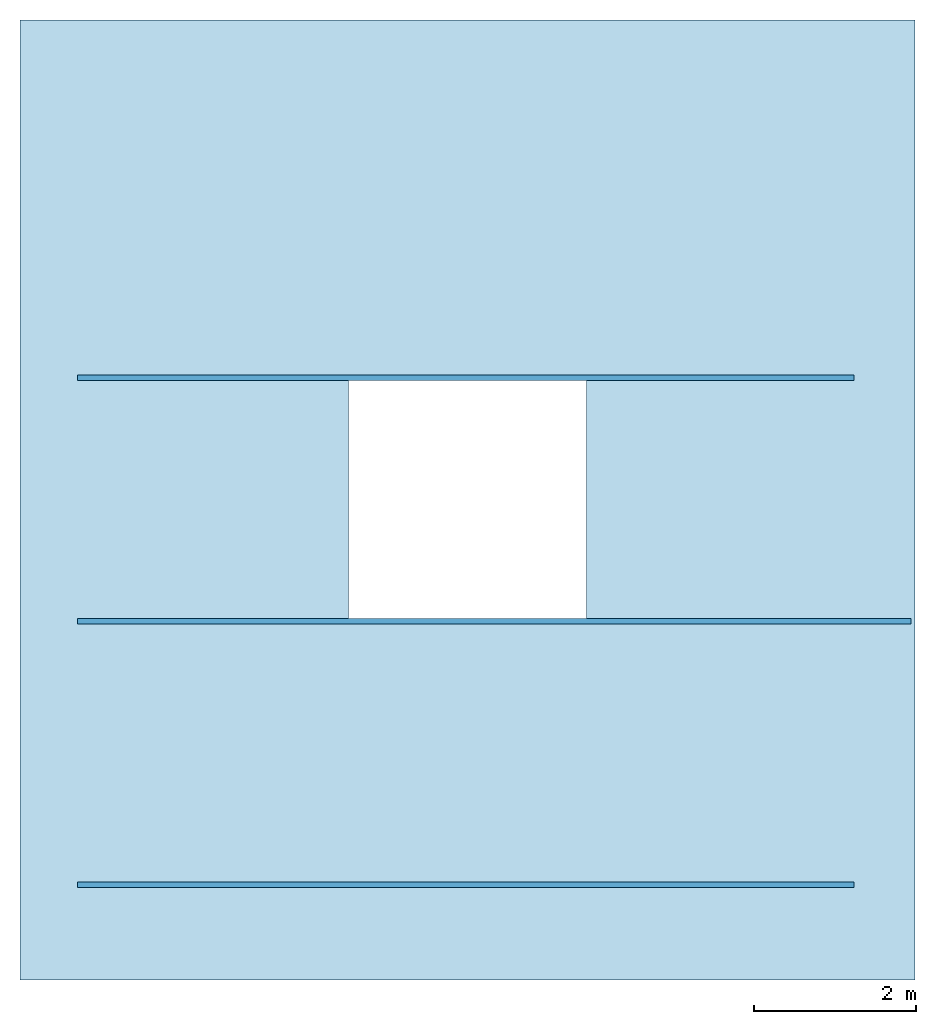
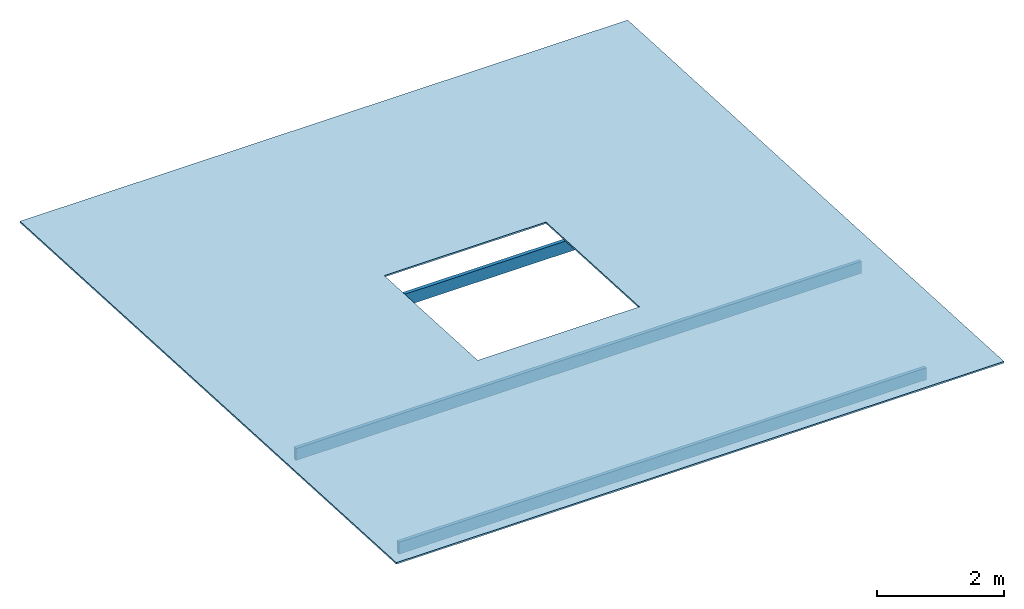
# One storey: 3 beams, 1 roof.
"""IFC2X3 building model written with IfcOpenShell, lengths in centimetres."""

import ifcopenshell
import ifcopenshell.guid

model = None  # the IFC model being written
_history = None  # IfcOwnerHistory: only IFC2X3 demands one
_inside = {}  # id of a spatial element -> (the spatial element, [elements in it])
_under = {}  # id of a project, library or spatial element -> (it, [spatial elements below it])
_declared = {}  # id of a project -> (the project, [libraries it declares])
_typed = {}  # id of a type object -> (the type object, [elements of that type])
_made_of = {}  # id of a material, layer set ... -> (it, [elements and type objects made of it])


def new_model(schema):
    """Start an empty IFC model of exactly this schema.

    Asked for "IFC4X3", IfcOpenShell would pick the latest addendum, in which some entities
    have other attributes; the version numbers below select the first issue.
    IFC2X3 requires an IfcOwnerHistory on every rooted entity: one is made here for all.
    """
    global model, _history
    if schema == "IFC4X3":
        model = ifcopenshell.file(schema_version=(4, 3, 0, 0))
    else:
        model = ifcopenshell.file(schema=schema)
    _inside.clear()
    _under.clear()
    _declared.clear()
    _typed.clear()
    _made_of.clear()
    _history = None
    if model.schema == "IFC2X3":
        org = make("IfcOrganization", Name="unknown")
        user = make(
            "IfcPersonAndOrganization",
            ThePerson=make("IfcPerson", FamilyName="unknown"),
            TheOrganization=org,
        )
        app = make(
            "IfcApplication",
            ApplicationDeveloper=org,
            Version="unknown",
            ApplicationFullName="unknown",
            ApplicationIdentifier="unknown",
        )
        _history = make(
            "IfcOwnerHistory",
            OwningUser=user,
            OwningApplication=app,
            ChangeAction="ADDED",
            CreationDate=0,
        )
    return model


def make(cls, **values):
    """One entity of the class cls with the attributes given. An attribute that is None is left unset."""
    return model.create_entity(
        cls, **{name: value for name, value in values.items() if value is not None}
    )


def entity(cls, *values):
    """Any entity or typed value of the class cls, its attributes in the order of the schema. None: left unset."""
    e = model.create_entity(cls)
    for i, value in enumerate(values):
        if value is not None:
            e[i] = value
    return e


def rooted(cls, **values):
    """An entity with a GlobalId (a new one), such as an element, a storey or a relation."""
    return make(cls, GlobalId=ifcopenshell.guid.new(), OwnerHistory=_history, **values)


def si_unit(unit_type, name, prefix=None):
    """IfcSIUnit, for example si_unit("LENGTHUNIT", "METRE", prefix="MILLI")."""
    return make("IfcSIUnit", UnitType=unit_type, Prefix=prefix, Name=name)


def converted_unit(unit_type, name, factor, base, dimensions=None, offset=None):
    """IfcConversionBasedUnit, such as the inch: factor (a typed value) times the base unit."""
    return make(
        "IfcConversionBasedUnit"
        if offset is None
        else "IfcConversionBasedUnitWithOffset",
        ConversionOffset=offset,
        Dimensions=None
        if dimensions is None
        else entity("IfcDimensionalExponents", *dimensions),
        UnitType=unit_type,
        Name=name,
        ConversionFactor=make(
            "IfcMeasureWithUnit", ValueComponent=factor, UnitComponent=base
        ),
    )


def derived_unit(unit_type, elements):
    """IfcDerivedUnit: a product of units, each with its exponent."""
    return make(
        "IfcDerivedUnit",
        Elements=[
            make("IfcDerivedUnitElement", Unit=unit, Exponent=power)
            for unit, power in elements
        ],
        UnitType=unit_type,
    )


def assignment(units):
    """IfcUnitAssignment: the units of a project."""
    return None if units is None else make("IfcUnitAssignment", Units=units)


def point(xyz):
    """IfcCartesianPoint."""
    return None if xyz is None else make("IfcCartesianPoint", Coordinates=xyz)


def direction(xyz):
    """IfcDirection."""
    return None if xyz is None else make("IfcDirection", DirectionRatios=xyz)


def frame(location, z_axis=None, x_axis=None):
    """IfcAxis2Placement3D, a coordinate frame: its origin and axes. An axis left out is left unset."""
    return make(
        "IfcAxis2Placement3D",
        Location=point(location),
        Axis=direction(z_axis),
        RefDirection=direction(x_axis),
    )


def frame_2d(location, x_axis=None):
    """IfcAxis2Placement2D, a coordinate frame in the plane: its origin and x axis."""
    return make(
        "IfcAxis2Placement2D", Location=point(location), RefDirection=direction(x_axis)
    )


def origin():
    """The frame at (0, 0, 0) with its axes left unset."""
    return frame((0.0, 0.0, 0.0))


def origin_2d_with_axis():
    """The frame at (0, 0) in the plane with the x axis (1, 0) written out."""
    return frame_2d((0.0, 0.0), x_axis=(1.0, 0.0))


def place(relative_to, where):
    """IfcLocalPlacement: puts the frame where relative to a parent placement (None: the world)."""
    return make(
        "IfcLocalPlacement", PlacementRelTo=relative_to, RelativePlacement=where
    )


def context(
    kind, dimensions, precision=None, world=None, true_north=None, identifier=None
):
    """IfcGeometricRepresentationContext, for example the 3D "Model" context."""
    return make(
        "IfcGeometricRepresentationContext",
        ContextIdentifier=identifier,
        ContextType=kind,
        CoordinateSpaceDimension=dimensions,
        Precision=precision,
        WorldCoordinateSystem=world,
        TrueNorth=true_north,
    )


def subcontext(parent, identifier, kind, view, scale=None):
    """IfcGeometricRepresentationSubContext, for example "Body" below "Model"."""
    return make(
        "IfcGeometricRepresentationSubContext",
        ContextIdentifier=identifier,
        ContextType=kind,
        ParentContext=parent,
        TargetScale=scale,
        TargetView=view,
    )


def project(units=None, contexts=None):
    """IfcProject with its units and contexts."""
    return rooted(
        "IfcProject",
        Name="project",
        RepresentationContexts=contexts,
        UnitsInContext=assignment(units),
    )


def spatial(cls, under=None, at=None, **own):
    """A site, building, storey or space (cls), placed at a placement, below another one or the project."""
    s = rooted(cls, ObjectPlacement=at, **own)
    if under is not None:
        _under.setdefault(under.id(), (under, []))[1].append(s)
    return s


def profile(cls, at=None, kind="AREA", **sizes):
    """A parametric profile (cls). Its sizes go by their IFC names, for example OverallWidth=200.0."""
    return make(cls, ProfileType=kind, Position=at, **sizes)


def rectangle(**sizes):
    """IfcRectangleProfileDef."""
    return profile("IfcRectangleProfileDef", **sizes)


def extrude(swept, where, along, depth):
    """IfcExtrudedAreaSolid: the profile swept, set in the frame where, extruded along a direction by depth."""
    return make(
        "IfcExtrudedAreaSolid",
        SweptArea=swept,
        Position=where,
        ExtrudedDirection=direction(along),
        Depth=depth,
    )


def faces_of(points, faces, orient=None, outer=None):
    """IfcFace entities. A face is a list of loops; a loop is a list of indices into points, from 0.

    orient and outer hold one flag for each loop. By default every Orientation is true, the
    first loop of a face is its IfcFaceOuterBound and the others are IfcFaceBound.
    """
    made = []
    for i, loops in enumerate(faces):
        bounds = []
        for j, loop in enumerate(loops):
            is_outer = j == 0 if outer is None else outer[i][j]
            bounds.append(
                make(
                    "IfcFaceOuterBound" if is_outer else "IfcFaceBound",
                    Bound=make("IfcPolyLoop", Polygon=[points[k] for k in loop]),
                    Orientation=True if orient is None else orient[i][j],
                )
            )
        made.append(make("IfcFace", Bounds=bounds))
    return made


def faceted_brep(points, faces, orient=None, outer=None, voids=None):
    """IfcFacetedBrep: a solid bounded by flat faces; with voids (closed shells), ...WithVoids."""
    shared = [point(p) for p in points]
    hull = make("IfcClosedShell", CfsFaces=faces_of(shared, faces, orient, outer))
    if voids is None:
        return make("IfcFacetedBrep", Outer=hull)
    return make(
        "IfcFacetedBrepWithVoids",
        Outer=hull,
        Voids=[
            make(cls, CfsFaces=faces_of(shared, fs, o, b)) for cls, fs, o, b in voids
        ],
    )


def shape(context_of_items, identifier, shape_type, items):
    """IfcShapeRepresentation: the items that make up one representation, for example the "Body"."""
    return make(
        "IfcShapeRepresentation",
        ContextOfItems=context_of_items,
        RepresentationIdentifier=identifier,
        RepresentationType=shape_type,
        Items=items,
    )


def material(Name=None, Category=None):
    """IfcMaterial."""
    return make("IfcMaterial", Name=Name, Category=Category)


def layer(
    of_material, thickness, ventilated=None, Name=None, Category=None, Priority=None
):
    """IfcMaterialLayer: one layer of a wall or slab, of a material (None: an air gap)."""
    return make(
        "IfcMaterialLayer",
        Material=of_material,
        LayerThickness=thickness,
        IsVentilated=ventilated,
        Name=Name,
        Category=Category,
        Priority=Priority,
    )


def layer_set(layers, Name=None):
    """IfcMaterialLayerSet."""
    return make("IfcMaterialLayerSet", MaterialLayers=layers, LayerSetName=Name)


def made_of(thing, what):
    """Note that an element or type object is made of a material, layer set ...; save() writes the relation."""
    if what is not None:
        _made_of.setdefault(what.id(), (what, []))[1].append(thing)
    return thing


def type_object(cls, material=None, **own):
    """A type object (cls), such as IfcWallType, which elements share."""
    return made_of(rooted(cls, **own), material)


def element(
    cls,
    number,
    at=None,
    inside=None,
    cuts=None,
    type_object=None,
    material=None,
    context=None,
    identifier="Body",
    shape_type=None,
    held_by="IfcProductDefinitionShape",
    body=None,
    shapes=None,
    **own,
):
    """One element of the class cls, such as IfcWall. Its Tag is "e" and its number.

    at: its placement. inside: the storey or other place that contains it. cuts: it is an
    opening in that element (IfcRelVoidsElement). A single representation is given by context,
    identifier, shape_type and body (its items); several are given by shapes. held_by: the class
    of the entity that holds the representations. save() writes the other relations.
    """
    e = rooted(cls, Tag="e%d" % number, ObjectPlacement=at, **own)
    if body is not None:
        shapes = [shape(context, identifier, shape_type, body)]
    if shapes is not None:
        e.Representation = make(held_by, Representations=shapes)
    if inside is not None:
        _inside.setdefault(inside.id(), (inside, []))[1].append(e)
    if cuts is not None:
        rooted(
            "IfcRelVoidsElement", RelatingBuildingElement=cuts, RelatedOpeningElement=e
        )
    if type_object is not None:
        _typed.setdefault(type_object.id(), (type_object, []))[1].append(e)
    return made_of(e, material)


def aggregate(whole, parts):
    """IfcRelAggregates: a whole, such as a stair, and the parts it consists of."""
    return rooted("IfcRelAggregates", RelatingObject=whole, RelatedObjects=parts)


def save(model, path):
    """Write the relations noted so far, then the file.

    IfcRelAggregates (storeys below a building ...), IfcRelContainedInSpatialStructure (elements
    in a storey), IfcRelDefinesByType, IfcRelAssociatesMaterial and IfcRelDeclares: one each for
    every whole, place, type object, material and project.
    """
    for whole, parts in _under.values():
        aggregate(whole, parts)
    for where, things in _inside.values():
        rooted(
            "IfcRelContainedInSpatialStructure",
            RelatedElements=things,
            RelatingStructure=where,
        )
    for kind, things in _typed.values():
        rooted("IfcRelDefinesByType", RelatedObjects=things, RelatingType=kind)
    for what, things in _made_of.values():
        rooted("IfcRelAssociatesMaterial", RelatedObjects=things, RelatingMaterial=what)
    for by, libraries in _declared.values():
        rooted("IfcRelDeclares", RelatingContext=by, RelatedDefinitions=libraries)
    model.write(path)


model = new_model("IFC2X3")

# Units and contexts
model_context = context("Model", 3, precision=0.001, world=origin(), true_north=direction((6.123233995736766e-17, 1.0)))
body_context = subcontext(model_context, "Body", "Model", "MODEL_VIEW")
ifc_project = project(units=[si_unit("LENGTHUNIT", "METRE", prefix="CENTI"), si_unit("AREAUNIT", "SQUARE_METRE"), si_unit("VOLUMEUNIT", "CUBIC_METRE"), converted_unit("PLANEANGLEUNIT", "DEGREE", entity("IfcPlaneAngleMeasure", 0.017453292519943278), si_unit("PLANEANGLEUNIT", "RADIAN"), dimensions=[0, 0, 0, 0, 0, 0, 0]), si_unit("POWERUNIT", "WATT"), derived_unit("USERDEFINED", [(si_unit("MASSUNIT", "GRAM", prefix="KILO"), 1), (si_unit("TIMEUNIT", "SECOND"), -3)]), si_unit("FORCEUNIT", "NEWTON", prefix="KILO"), derived_unit("THERMALTRANSMITTANCEUNIT", [(si_unit("MASSUNIT", "GRAM", prefix="KILO"), 1), (si_unit("TIMEUNIT", "SECOND"), -3), (si_unit("THERMODYNAMICTEMPERATUREUNIT", "KELVIN"), -1)]), derived_unit("USERDEFINED", [(si_unit("MASSUNIT", "GRAM", prefix="KILO"), 1), (si_unit("THERMODYNAMICTEMPERATUREUNIT", "KELVIN"), -1), (si_unit("TIMEUNIT", "SECOND"), -2)]), derived_unit("THERMALRESISTANCEUNIT", [(si_unit("MASSUNIT", "GRAM", prefix="KILO"), -1), (si_unit("TIMEUNIT", "SECOND"), 3), (si_unit("THERMODYNAMICTEMPERATUREUNIT", "KELVIN"), 1)]), derived_unit("USERDEFINED", [(si_unit("MASSUNIT", "GRAM", prefix="KILO"), -1), (si_unit("TIMEUNIT", "SECOND"), 3), (si_unit("LENGTHUNIT", "METRE"), -2), (si_unit("LUMINOUSFLUXUNIT", "LUMEN"), 1)]), si_unit("LUMINOUSFLUXUNIT", "LUMEN")], contexts=[model_context])

# Site, building, storey
site_placement = place(None, origin())
site = spatial("IfcSite", under=ifc_project, at=site_placement, Name="Default", CompositionType="ELEMENT")
building_placement = place(site_placement, origin())
building = spatial("IfcBuilding", under=site, at=building_placement, Name="Workshop Hbaitáculo - Refugio Tierra del Fuego", CompositionType="ELEMENT")
storey_placement = place(building_placement, frame((0.0, 0.0, 601.0)))
storey = spatial("IfcBuildingStorey", under=building, at=storey_placement, Name="NOG_Pilares Cara Superior", CompositionType="ELEMENT", Elevation=600.9999999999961)

# Beams
ifc_material_1 = material(Name="Madera Oscura")
beam_type = type_object("IfcBeamType", Name="Arauco Hilam Viga:Hilam Viga 65x228 mm", PredefinedType="BEAM")
beam_1_placement = place(storey_placement, frame((-96.13781449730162, -615.7500000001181, -22.800000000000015)))
element("IfcBeam", 1, at=beam_1_placement, inside=storey, type_object=beam_type, material=ifc_material_1, Name="Arauco Hilam Viga:Hilam Viga 65x228 mm", ObjectType="Arauco Hilam Viga:Hilam Viga 65x228 mm", context=body_context, shape_type="SweptSolid", body=[
    extrude(rectangle(XDim=22.800000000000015, YDim=6.500000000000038, at=origin_2d_with_axis()), frame((65.77628155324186, 0.0, -11.400000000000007), z_axis=(1.0, 0.0, 0.0), x_axis=(0.0, 0.0, -1.0)), (0.0, 0.0, 1.0), 956.8615329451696),
])
beam_2_placement = place(storey_placement, frame((-96.13781449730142, -291.0, -40.0)))
element("IfcBeam", 2, at=beam_2_placement, inside=storey, type_object=beam_type, material=ifc_material_1, Name="Arauco Hilam Viga:Hilam Viga 65x228 mm", ObjectType="Arauco Hilam Viga:Hilam Viga 65x228 mm", context=body_context, shape_type="SweptSolid", body=[
    extrude(rectangle(XDim=22.80000000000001, YDim=6.499999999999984, at=frame_2d((0.0, -8.126832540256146e-14), x_axis=(1.0, 0.0))), frame((65.77628155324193, 0.0, -11.400000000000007), z_axis=(1.0, 0.0, 0.0), x_axis=(0.0, 0.0, -1.0)), (0.0, 0.0, 1.0), 1026.8615329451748),
])
beam_3_placement = place(storey_placement, frame((-96.13781449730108, 9.0, -55.49999999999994)))
element("IfcBeam", 3, at=beam_3_placement, inside=storey, type_object=beam_type, material=ifc_material_1, Name="Arauco Hilam Viga:Hilam Viga 65x228 mm", ObjectType="Arauco Hilam Viga:Hilam Viga 65x228 mm", context=body_context, shape_type="SweptSolid", body=[
    extrude(rectangle(XDim=22.800000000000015, YDim=6.499999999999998, at=frame_2d((0.0, -4.440892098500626e-16), x_axis=(1.0, 0.0))), frame((65.77628155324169, 0.0, -11.400000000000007), z_axis=(1.0, 0.0, 0.0), x_axis=(0.0, 0.0, -1.0)), (0.0, 0.0, 1.0), 956.8615329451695),
])

# Roof
ifc_material_2 = material(Name="Panel Micro Ondulado Negro")
ifc_layer_1 = layer(ifc_material_2, 1.2)
ifc_material_3 = material(Name="M_OSB 18mm")
ifc_layer_2 = layer(ifc_material_3, 1.8)
ifc_layer_set = layer_set([ifc_layer_1, ifc_layer_2], Name="Cubierta básica:Cubierta Cubiculo")
type_product = type_object("IfcTypeProduct", Name="Cubierta básica:Cubierta Cubiculo")
roof_placement = place(storey_placement, frame((-101.4999999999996, -733.0979154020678, -32.78261496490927)))
element("IfcRoof", 4, at=roof_placement, inside=storey, type_object=type_product, material=ifc_layer_set, Name="Cubierta básica:Cubierta Cubiculo", ObjectType="Cubierta básica:Cubierta Cubiculo", ShapeType="NOTDEFINED", context=body_context, shape_type="Brep", body=[
    faceted_brep([(0.0, 0.0, 65.13648777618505), (0.0, 1183.0, 3.004134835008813), (0.0, 1183.0, 0.0), (0.0, 0.0, 62.13235294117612), (1103.000000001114, 1183.0, 3.004134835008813), (1103.0000000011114, 0.0, 65.13648777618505), (1103.0000000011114, 0.0, 62.13235294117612), (1103.000000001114, 1183.0, 0.0), (698.2500000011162, 738.8479154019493, 26.331450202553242), (698.2500000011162, 445.3479154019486, 41.74636616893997), (404.74999999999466, 445.3479154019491, 41.74636616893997), (404.74999999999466, 738.8479154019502, 26.331450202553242), (698.2500000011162, 445.34791540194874, 38.742231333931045), (698.2500000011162, 738.84791540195, 23.32731536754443), (404.74999999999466, 738.8479154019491, 23.32731536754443), (404.74999999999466, 445.3479154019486, 38.74223133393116)], [[[0, 1, 2, 3]], [[4, 5, 6, 7]], [[1, 0, 5, 4], [8, 9, 10, 11]], [[2, 1, 4, 7]], [[3, 2, 7, 6], [12, 13, 14, 15]], [[0, 3, 6, 5]], [[12, 9, 8, 13]], [[13, 8, 11, 14]], [[14, 11, 10, 15]], [[9, 12, 15, 10]]]),
])

save(model, "model.ifc")
